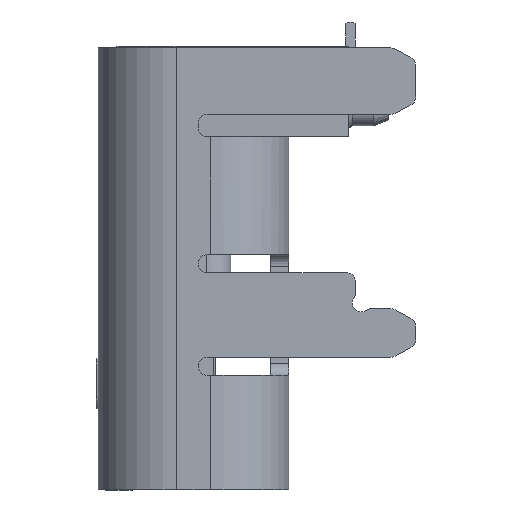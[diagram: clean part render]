
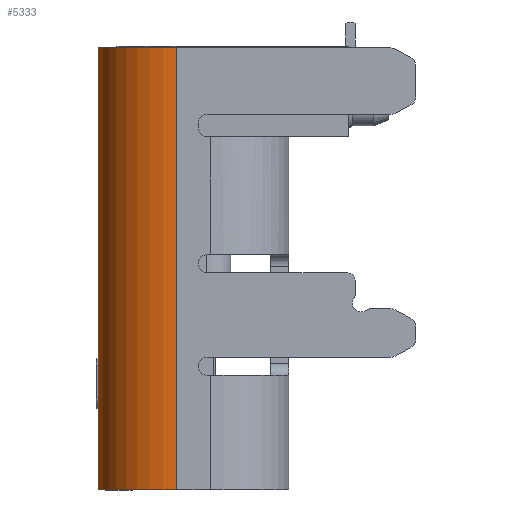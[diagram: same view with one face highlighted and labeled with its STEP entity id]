
A CAD part, left-side view. The second image highlights one B-rep face of the part: STEP entity #5333.
In plain terms, the highlighted cylindrical face has radius 1.3 mm (diameter 2.6 mm), a partial arc.
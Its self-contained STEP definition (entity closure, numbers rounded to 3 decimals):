
#988 = CARTESIAN_POINT ( 'NONE',  ( -4.379, -0.678, 9.666 ) ) ;
#2256 = ORIENTED_EDGE ( 'NONE', *, *, #15290, .T. ) ;
#2644 = EDGE_CURVE ( 'NONE', #20434, #10801, #21581, .T. ) ;
#3130 = VERTEX_POINT ( 'NONE', #988 ) ;
#3876 = EDGE_CURVE ( 'NONE', #3130, #20434, #5452, .T. ) ;
#4324 = DIRECTION ( 'NONE',  ( 0., 0., -1. ) ) ;
#4451 = CARTESIAN_POINT ( 'NONE',  ( -4.379, -0.678, 16.986 ) ) ;
#4619 = DIRECTION ( 'NONE',  ( 0., 0., -1. ) ) ;
#4735 = CARTESIAN_POINT ( 'NONE',  ( -3.079, -0.678, 16.986 ) ) ;
#5063 = EDGE_LOOP ( 'NONE', ( #15104, #22935, #2256, #15564 ) ) ;
#5333 = ADVANCED_FACE ( 'NONE', ( #15105 ), #11066, .T. ) ;
#5452 = CIRCLE ( 'NONE', #14306, 1.3 ) ;
#6502 = CARTESIAN_POINT ( 'NONE',  ( -3.079, 0.622, 9.666 ) ) ;
#6888 = AXIS2_PLACEMENT_3D ( 'NONE', #4735, #4619, #22689 ) ;
#7372 = CARTESIAN_POINT ( 'NONE',  ( -3.079, -0.678, 9.666 ) ) ;
#10616 = CARTESIAN_POINT ( 'NONE',  ( -3.079, 0.622, 16.986 ) ) ;
#10700 = VECTOR ( 'NONE', #4324, 1000. ) ;
#10801 = VERTEX_POINT ( 'NONE', #18208 ) ;
#11066 = CYLINDRICAL_SURFACE ( 'NONE', #14977, 1.3 ) ;
#13024 = DIRECTION ( 'NONE',  ( 0., 0., -1. ) ) ;
#13308 = EDGE_CURVE ( 'NONE', #19697, #3130, #20622, .T. ) ;
#13977 = DIRECTION ( 'NONE',  ( 0., 0., 1. ) ) ;
#14306 = AXIS2_PLACEMENT_3D ( 'NONE', #7372, #14573, #14455 ) ;
#14455 = DIRECTION ( 'NONE',  ( -1., 0., 0. ) ) ;
#14482 = CARTESIAN_POINT ( 'NONE',  ( -4.379, -0.678, 16.986 ) ) ;
#14573 = DIRECTION ( 'NONE',  ( 0., 0., -1. ) ) ;
#14977 = AXIS2_PLACEMENT_3D ( 'NONE', #18388, #13024, #19914 ) ;
#15104 = ORIENTED_EDGE ( 'NONE', *, *, #3876, .F. ) ;
#15105 = FACE_OUTER_BOUND ( 'NONE', #5063, .T. ) ;
#15290 = EDGE_CURVE ( 'NONE', #19697, #10801, #16908, .T. ) ;
#15564 = ORIENTED_EDGE ( 'NONE', *, *, #2644, .F. ) ;
#15795 = VECTOR ( 'NONE', #13977, 1000. ) ;
#16908 = CIRCLE ( 'NONE', #6888, 1.3 ) ;
#18208 = CARTESIAN_POINT ( 'NONE',  ( -3.079, 0.622, 16.986 ) ) ;
#18388 = CARTESIAN_POINT ( 'NONE',  ( -3.079, -0.678, 9.666 ) ) ;
#19697 = VERTEX_POINT ( 'NONE', #4451 ) ;
#19914 = DIRECTION ( 'NONE',  ( -1., 0., 0. ) ) ;
#20434 = VERTEX_POINT ( 'NONE', #6502 ) ;
#20622 = LINE ( 'NONE', #14482, #10700 ) ;
#21581 = LINE ( 'NONE', #10616, #15795 ) ;
#22689 = DIRECTION ( 'NONE',  ( -1., 0., 0. ) ) ;
#22935 = ORIENTED_EDGE ( 'NONE', *, *, #13308, .F. ) ;
